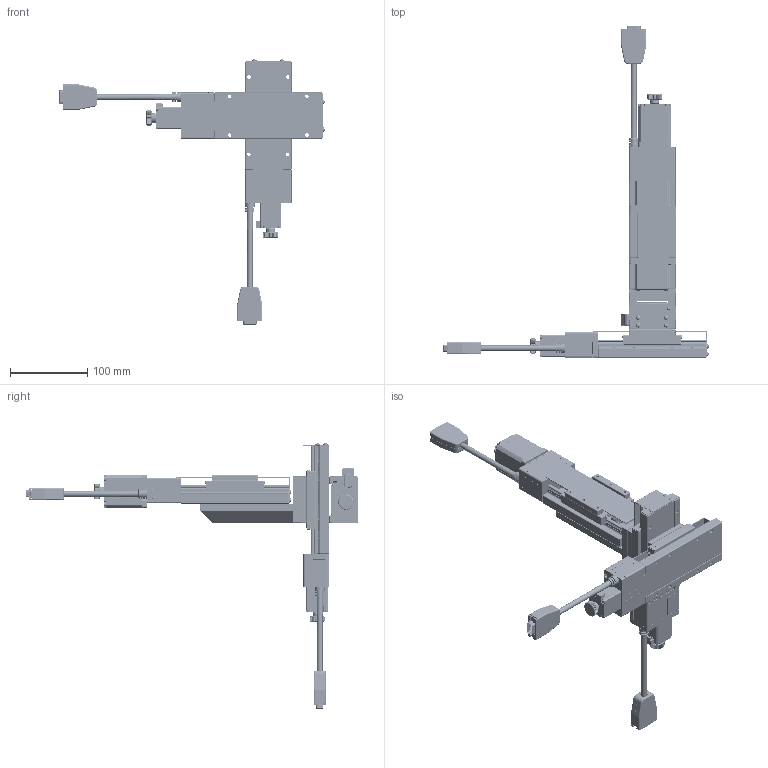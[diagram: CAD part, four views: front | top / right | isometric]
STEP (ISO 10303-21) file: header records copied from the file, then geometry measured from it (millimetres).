
FILE_DESCRIPTION (( 'STEP AP203' ), '1' );
FILE_NAME ('CXYZC6050-S2?N.STEP', '2023-10-02T07:12:53', ( '' ), ( '' ), 'SwSTEP 2.0', 'SolidWorks 2019', '' );
FILE_SCHEMA (( 'CONFIG_CONTROL_DESIGN' ));
Products named in the file (13): CXN60_GMT.STEP_GMT; CXYZC6050-S2?N; CXZC6050-S2?N.STEP; Group2^CZLC6050-S2_N(2023_s__)_defeature_GMT.STEP_GMT.STEP_GMT; Group1^CXC6050-S2_N(2023_s__)_defeature_GMT.STEP_GMT; Group2^CXC6050-S2_N(2023_s__)_defeature_GMT.STEP_GMT.STEP_GMT; CXN60_GMT.STEP_GMT.STEP_GMT; CZLC6050-S2_N.STEP.STEP; CXC6050-S2?N.STEP; Group2^CXC6050-S2_N(2023_s__)_defeature_GMT.STEP_GMT; Group1^CZLC6050-S2_N(2023_s__)_defeature_GMT.STEP_GMT.STEP_GMT; Group1^CXC6050-S2_N(2023_s__)_defeature_GMT.STEP_GMT.STEP_GMT; CXC6050-S2_N.STEP.STEP
Assembly tree (13 placements, depth 4):
  CXYZC6050-S2?N
    CXZC6050-S2?N.STEP
      CXC6050-S2_N.STEP.STEP
        Group1^CXC6050-S2_N(2023_s__)_defeature_GMT.STEP_GMT.STEP_GMT
        Group2^CXC6050-S2_N(2023_s__)_defeature_GMT.STEP_GMT.STEP_GMT
        CXN60_GMT.STEP_GMT.STEP_GMT
      CZLC6050-S2_N.STEP.STEP
        Group1^CZLC6050-S2_N(2023_s__)_defeature_GMT.STEP_GMT.STEP_GMT
        Group2^CZLC6050-S2_N(2023_s__)_defeature_GMT.STEP_GMT.STEP_GMT
        CXN60_GMT.STEP_GMT.STEP_GMT
    CXC6050-S2?N.STEP
      Group1^CXC6050-S2_N(2023_s__)_defeature_GMT.STEP_GMT
      Group2^CXC6050-S2_N(2023_s__)_defeature_GMT.STEP_GMT
      CXN60_GMT.STEP_GMT
Bounding box: 342.25 x 428.6 x 342.25 mm (x, y, z)
Volume: 145771.5 mm3; surface area: 393918.9 mm2
Topology: 63 solids, 145 shells, 12938 faces, 33726 edges, 21015 vertices
Faces by surface type: plane 5110, cylinder 3817, cone 1537, torus 1244, bspline 802, sphere 428
Entity records: 479597 total; most frequent: CARTESIAN_POINT 205407, ORIENTED_EDGE 65642, DIRECTION 43569, EDGE_CURVE 33118, VERTEX_POINT 20870, B_SPLINE_CURVE_WITH_KNOTS 20559, AXIS2_PLACEMENT_3D 19250, EDGE_LOOP 13484
